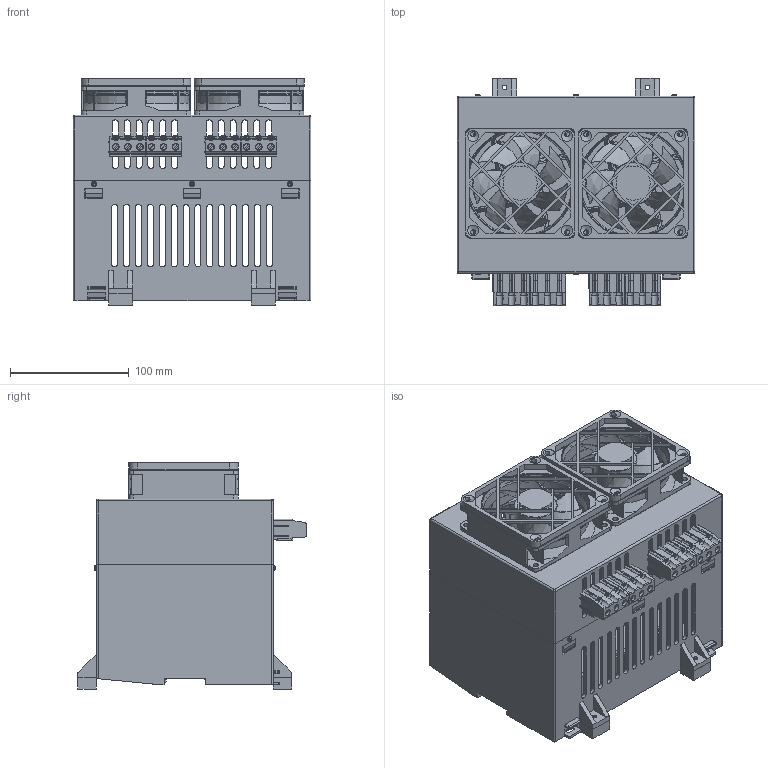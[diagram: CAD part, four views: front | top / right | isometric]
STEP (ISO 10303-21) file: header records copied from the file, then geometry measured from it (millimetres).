
FILE_DESCRIPTION(/* description */ (''),/* implementation_level */ '2;1');
FILE_NAME(/* name */ 'AL200HD v3.step',/* time_stamp */ '2024-11-21T09:48:41+01:00',/* author */ (''),/* organization */ (''),/* preprocessor_version */ 'ST-DEVELOPER v20',/* originating_system */ 'Autodesk Translation Framework v13.20.0.188',/* authorisation */ '');
FILE_SCHEMA (('AUTOMOTIVE_DESIGN { 1 0 10303 214 3 1 1 }'));
Products named in the file (19): AL200HD; CM200_LG_H_55_BO_DB_GH; CM200_H_55_BO; CM200_GEH_150_BO_DB_GH; PCB_CM200; PCB_13.1; schraub_blech_b2.2x9.5.2; CM_GDH; CUI_DEVICES_CFM-9225V-227-320; 1774137 v1; 1774137; 1774137 v1 (2); 1774137_1; 1774137 v1 (1); 1774137_2; 1774137 v1 (3); 1774137_3; 10316900; 10316900_1
Assembly tree (28 placements, depth 4):
  AL200HD
    CUI_DEVICES_CFM-9225V-227-320  x2
    CM200_LG_H_55_BO_DB_GH
      CM200_H_55_BO
      CM200_GEH_150_BO_DB_GH
      CM_GDH  x4
      schraub_blech_b2.2x9.5.2  x6
      PCB_CM200
        PCB_13.1  x2
    1774137 v1
      1774137
    1774137 v1 (2)
      1774137_1
    1774137 v1 (1)
      1774137_2
    1774137 v1 (3)
      1774137_3
    10316900
    10316900_1
Bounding box: 200 x 191.8 x 190.1 mm (x, y, z)
Volume: 759659.8 mm3; surface area: 552922.6 mm2
Topology: 22 solids, 22 shells, 3565 faces, 9797 edges, 6408 vertices
Faces by surface type: plane 2101, cylinder 974, bspline 230, torus 142, cone 102, sphere 16
Full cylindrical faces by diameter (mm): 0.457 x4, 1 x4, 1.5 x30, 1.6 x48, 2.2 x48, 2.4 x6, 4 x10, 4.1 x8, 4.3 x24, 4.5 x4, 5 x12, 5.6 x12, 10 x2, 36 x2, 88 x3, 89.875 x1
Entity records: 103675 total; most frequent: CARTESIAN_POINT 32077, ORIENTED_EDGE 14824, DIRECTION 14073, EDGE_CURVE 7412, LINE 5201, VECTOR 5201, VERTEX_POINT 4853, AXIS2_PLACEMENT_3D 4436
